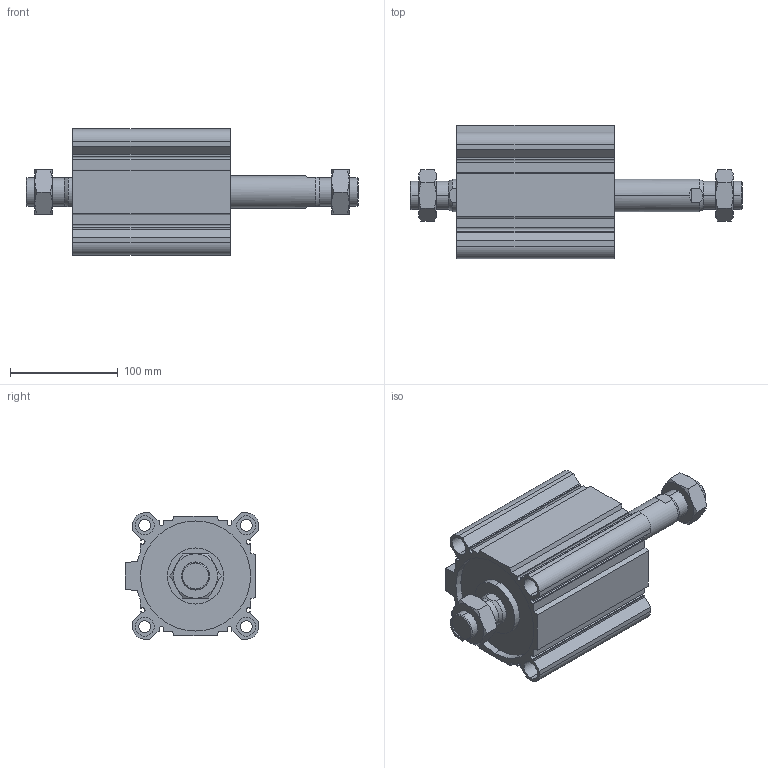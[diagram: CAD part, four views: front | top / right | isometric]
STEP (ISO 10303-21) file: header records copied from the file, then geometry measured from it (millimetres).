
FILE_DESCRIPTION (( 'STEP AP203' ), '1' );
FILE_NAME ('CCMB100-75M-P.STEP', '2020-08-10T12:00:49', ( '' ), ( '' ), 'SwSTEP 2.0', 'SolidWorks 2019', '' );
FILE_SCHEMA (( 'CONFIG_CONTROL_DESIGN' ));
Length unit declared in the file: millimetre
Products named in the file (1): CCMB100-75M-P
Bounding box: 307.5 x 123.5 x 117 mm (x, y, z)
Volume: 1202957.9 mm3; surface area: 256717.4 mm2
Topology: 4 solids, 4 shells, 230 faces, 568 edges, 364 vertices
Faces by surface type: plane 106, cylinder 80, cone 44
Entity records: 7879 total; most frequent: CARTESIAN_POINT 2279, DIRECTION 1166, ORIENTED_EDGE 1136, EDGE_CURVE 568, AXIS2_PLACEMENT_3D 431, VERTEX_POINT 364, LINE 304, VECTOR 304
